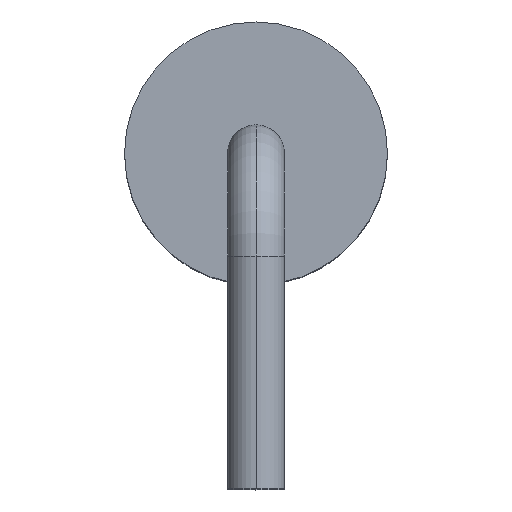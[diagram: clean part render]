
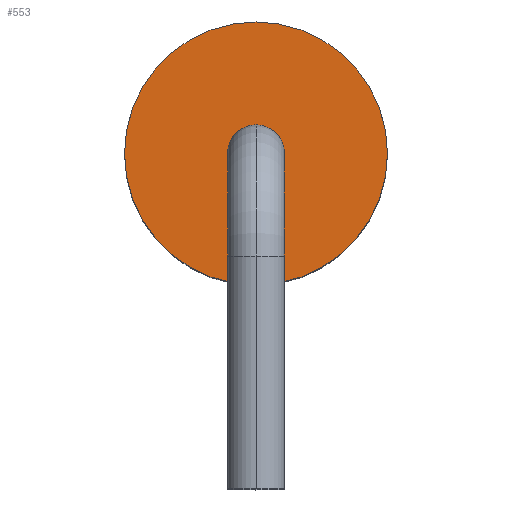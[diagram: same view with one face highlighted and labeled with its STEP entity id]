
A CAD part, top view. The second image highlights one B-rep face of the part: STEP entity #553.
In plain terms, the highlighted planar face has unit normal (0, 0, 1).
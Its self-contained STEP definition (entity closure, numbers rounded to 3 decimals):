
#102 = AXIS2_PLACEMENT_3D ( 'NONE', #268, #680, #322 ) ;
#137 = DIRECTION ( 'NONE',  ( 0., 0., 1. ) ) ;
#179 = DIRECTION ( 'NONE',  ( 1., 0., 0. ) ) ;
#187 = EDGE_CURVE ( 'NONE', #325, #262, #304, .T. ) ;
#228 = CIRCLE ( 'NONE', #638, 2.55 ) ;
#247 = CARTESIAN_POINT ( 'NONE',  ( -2.55, 0., 4.25 ) ) ;
#262 = VERTEX_POINT ( 'NONE', #290 ) ;
#268 = CARTESIAN_POINT ( 'NONE',  ( 0., 0., 4.25 ) ) ;
#290 = CARTESIAN_POINT ( 'NONE',  ( 2.55, 0., 4.25 ) ) ;
#304 = CIRCLE ( 'NONE', #349, 2.55 ) ;
#322 = DIRECTION ( 'NONE',  ( 1., 0., 0. ) ) ;
#325 = VERTEX_POINT ( 'NONE', #247 ) ;
#349 = AXIS2_PLACEMENT_3D ( 'NONE', #404, #467, #179 ) ;
#355 = EDGE_LOOP ( 'NONE', ( #686, #707 ) ) ;
#375 = EDGE_CURVE ( 'NONE', #262, #325, #228, .T. ) ;
#377 = PLANE ( 'NONE',  #102 ) ;
#404 = CARTESIAN_POINT ( 'NONE',  ( 0., 0., 4.25 ) ) ;
#467 = DIRECTION ( 'NONE',  ( 0., 0., 1. ) ) ;
#482 = CARTESIAN_POINT ( 'NONE',  ( 0., 0., 4.25 ) ) ;
#547 = DIRECTION ( 'NONE',  ( 1., 0., 0. ) ) ;
#553 = ADVANCED_FACE ( 'NONE', ( #568 ), #377, .T. ) ;
#568 = FACE_OUTER_BOUND ( 'NONE', #355, .T. ) ;
#638 = AXIS2_PLACEMENT_3D ( 'NONE', #482, #137, #547 ) ;
#680 = DIRECTION ( 'NONE',  ( 0., 0., 1. ) ) ;
#686 = ORIENTED_EDGE ( 'NONE', *, *, #187, .T. ) ;
#707 = ORIENTED_EDGE ( 'NONE', *, *, #375, .T. ) ;
